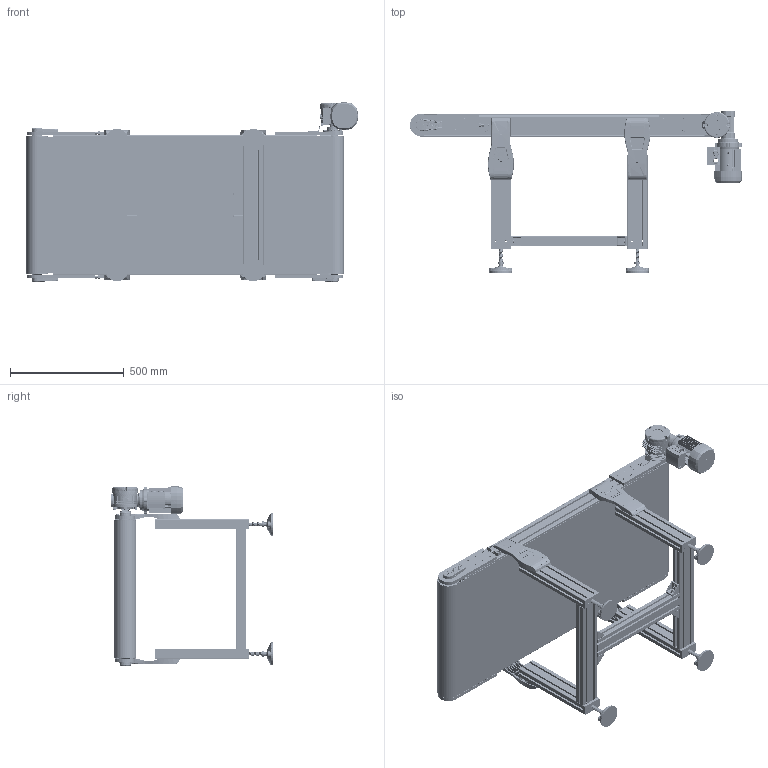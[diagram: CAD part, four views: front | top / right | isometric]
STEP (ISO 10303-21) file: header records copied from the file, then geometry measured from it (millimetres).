
FILE_DESCRIPTION (( 'STEP AP214' ), '1' );
FILE_NAME ('NASTRO_RETTILINEO_TAPPETO.step', '2026-05-10T15:45:23', ( 'Utente Windows' ), ( '' ), 'SwSTEP 2.0', 'SolidWorks 2024', '' );
FILE_SCHEMA (( 'AUTOMOTIVE_DESIGN' ));
Length unit declared in the file: millimetre
Products named in the file (57): RULLO_95_CINGHIE_Default<A macchina>; 2010.000.072; VITI TCEI UNI 5931_M6x12 UNI 5931; VITI TSEI UNI 5933_M4x12 UNI 5933; 084.802.060_Default<A macchina>; 084.305.003-1; 084.802.071; 084.803.003; TRAVERSA_95_Default<A macchina>; FLANGIA_GAMBA_95_CON GIUNTI; PIEDE_95; 084.802.034_084.802.034; 084.302.060; NASTRO_RETTILINEO_TAPPETO; DADO ESAGONALE M30 AUTOBLOCCANTE UNI 7473_M30 UNI 7473; 084.808.013; 084.402.005; RONDELLE UNI 6592_8.4x17 UNI 6592; LAMIERA_STANDARD; 084.803.017; 084.201.019; 084.302.000 DADI ALUSIC 13x13-1_084.302.004; VITE_RONDELLA_M8X20; GAMBE_D95_Default<A macchina>; BLOCCO_BRACCIO_CH05P_CH05P; 2010.000.073; 084.802.068; 084.303.001; BLOCCO_TRAINO_95_STANDARD_CON TENDINASTRO E CARTER; VITI TCEI UNI 5931_M4x25 UNI 5931; ANGOLARE_43; PERNO_95_TRAINO_CINGHIE_49_DX_Default<A macchina>; PERNO_95_RINVIO_CINGHIE; 084.302.000 DADI ALUSIC 13x13-1_084.302.007; 2010.000.074; 084.301.000 VITI ALUSIC1_084.301.003; 084.802.019_084.802.019; 084.802.062; 084.808.003_084.808.003; VITI TSEI UNI 5933_M5x12 UNI 5933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
Assembly tree (177 placements, depth 4):
  NASTRO_RETTILINEO_TAPPETO
    TAPPETO_STANDARD_CINGHIE
    TELAIO_95_CINGHIE_Default<A macchina>
    LAMIERA_STANDARD
    RULLO_95_CINGHIE_Default<A macchina>  x2
    PERNO_95_TRAINO_CINGHIE_49_DX_Default<A macchina>
    BLOCCO_TRAINO_95_STANDARD_49_DX_CON TENDINASTRO E SENZA CARTER
      084.808.003_084.808.003
      084.302.060  x2
      084.802.034_084.802.034
      084.301.000 VITI ALUSIC_084.301.003  x6
      084.802.067_Default<A macchina>
      VITI TCEI UNI 5931_M4x25 UNI 5931  x2
      BLOCCO_BRACCIO_CH05P_CH05P
        084.808.013
        084.802.062
        084.802.060_Default<A macchina>
        VITI TE UNI 5739_M8x12 UNI 5739  x4
        VITI TE UNI 5739_M6x12 UNI 5739  x4
        084.803.017
        VITI TCEI UNI 5931_M6x12 UNI 5931  x4
    BLOCCO_TRAINO_95_STANDARD_CON TENDINASTRO E CARTER
      084.808.002_084.808.002
      084.302.060  x2
      084.802.019_084.802.019
      084.301.000 VITI ALUSIC_084.301.003  x6
      VITI TCEI UNI 5931_M4x25 UNI 5931  x2
      084.802.071
      084.802.068
      VITI TSEI UNI 5933_M4x12 UNI 5933  x2
    GUIDA_CINGHIA_Z_95  x6
      449.014.106
      DADO ESAGONALE M30 AUTOBLOCCANTE UNI 7473_M30 UNI 7473
    PERNO_95_RINVIO_CINGHIE
    BLOCCO_RINVIO_95_STANDARD_CON TENDINASTRO E CARTER  x2
      084.808.002_084.808.002
      084.803.003
      084.302.060
      084.802.019_084.802.019
      VITI TSEI UNI 5933_M4x12 UNI 5933
      084.302.000 DADI ALUSIC 13x13-1_084.302.004
      084.301.000 VITI ALUSIC_084.301.003
      084.802.071
    GAMBE_D95_Default<A macchina>  x2
    FLANGIA_GAMBA_95_CON GIUNTI
      2010.000.072
        2010.000.072_L_Default<A macchina>
        2010.000.073
        2010.000.074
      084.302.000 DADI ALUSIC 13x13-1_084.302.004  x6
      RONDELLE UNI 6592_8.4x17 UNI 6592  x7
      084.301.000 VITI ALUSIC1_084.301.003  x7
    FLANGIA_GAMBA_95_CON GIUNTI  x3
      2010.000.072
        2010.000.072_L_Default<A macchina>
        2010.000.073
        2010.000.074
      084.302.000 DADI ALUSIC 13x13-1_084.302.004
      RONDELLE UNI 6592_8.4x17 UNI 6592
      084.301.000 VITI ALUSIC1_084.301.003
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Bounding box: 1459.8 x 713.5 x 788.7 mm (x, y, z)
Volume: 24823104.1 mm3; surface area: 14358705.4 mm2
Topology: 308 solids, 311 shells, 16599 faces, 43071 edges, 27331 vertices
Faces by surface type: plane 6942, cylinder 4678, bspline 2143, cone 1642, torus 1066, sphere 128
Entity records: 286454 total; most frequent: CARTESIAN_POINT 119913, ORIENTED_EDGE 36546, DIRECTION 31816, EDGE_CURVE 18273, VERTEX_POINT 11643, AXIS2_PLACEMENT_3D 11193, LINE 9430, VECTOR 9430
